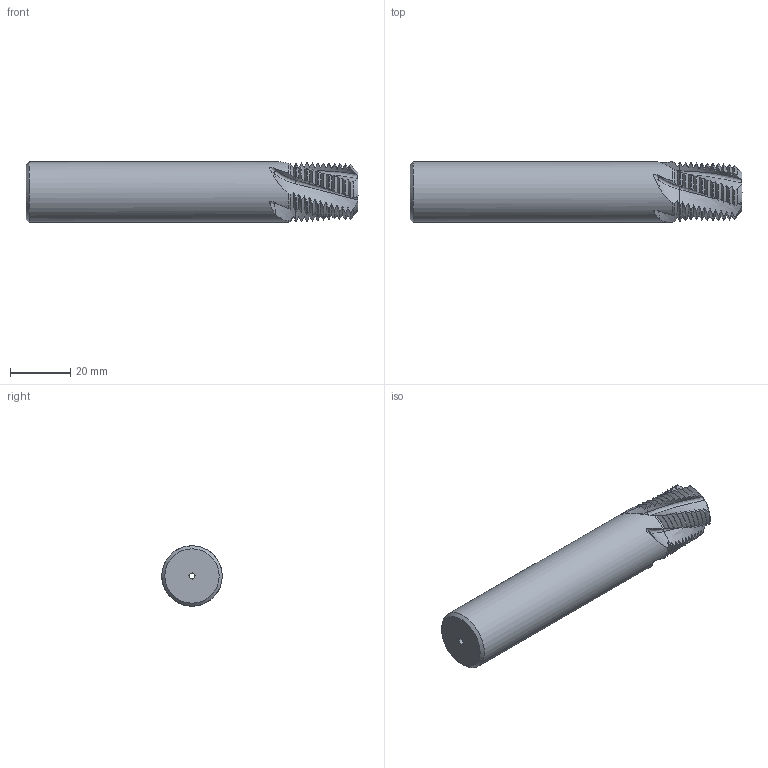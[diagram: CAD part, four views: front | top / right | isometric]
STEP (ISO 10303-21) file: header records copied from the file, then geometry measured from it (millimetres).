
FILE_DESCRIPTION(/* description */ (''),/* implementation_level */ '2;1');
FILE_NAME(/* name */ '171612-00036543-STEP',/* time_stamp */ '2024-02-21T13:19:49+01:00',/* author */ (''),/* organization */ (''),/* preprocessor_version */ 'ST-DEVELOPER v16.5',/* originating_system */ 'HiCAD 2017 2201.0 Build 268',/* authorisation */ '');
FILE_SCHEMA (('AUTOMOTIVE_DESIGN { 1 0 10303 214 1 1 1 1 }'));
Products named in the file (2): Root; ROTATIONSTEIL_0
Assembly tree (1 placements, depth 2):
  Root
    ROTATIONSTEIL_0
Bounding box: 110 x 20 x 19.99 mm (x, y, z)
Volume: 31104.5 mm3; surface area: 8705.1 mm2
Topology: 1 solids, 1 shells, 300 faces, 1009 edges, 711 vertices
Faces by surface type: cone 131, torus 115, bspline 45, cylinder 7, plane 2
Full cylindrical faces by diameter (mm): 2 x1, 20 x1
Entity records: 41332 total; most frequent: CARTESIAN_POINT 24463, PRESENTATION_STYLE_ASSIGNMENT 2009, COLOUR_RGB 2009, DRAUGHTING_PRE_DEFINED_CURVE_FONT 2008, CURVE_STYLE 2008, OVER_RIDING_STYLED_ITEM 2008, ORIENTED_EDGE 2008, DIRECTION 1082
